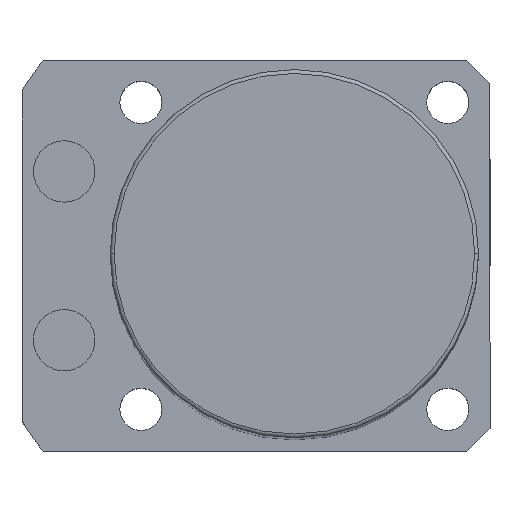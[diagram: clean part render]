
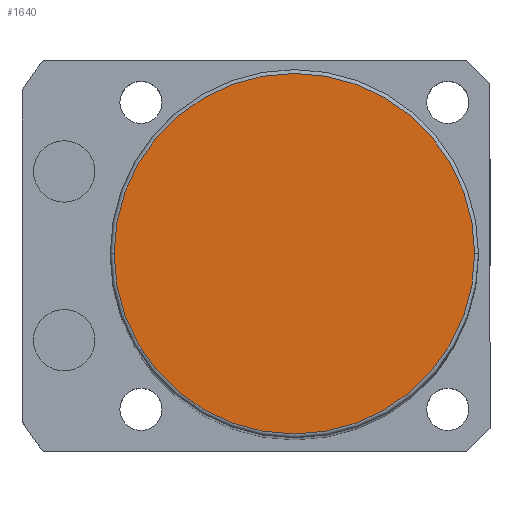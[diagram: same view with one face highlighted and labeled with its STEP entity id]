
A CAD part, top view. The second image highlights one B-rep face of the part: STEP entity #1640.
In plain terms, the highlighted planar face has unit normal (0, 0, 1).
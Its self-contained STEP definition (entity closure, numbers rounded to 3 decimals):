
#5 = DIRECTION ( 'NONE',  ( 1., 0., 0. ) ) ;
#17 = EDGE_CURVE ( 'NONE', #2436, #2376, #656, .T. ) ;
#452 = ORIENTED_EDGE ( 'NONE', *, *, #1137, .T. ) ;
#636 = CARTESIAN_POINT ( 'NONE',  ( 0., 0., 171. ) ) ;
#640 = CARTESIAN_POINT ( 'NONE',  ( 0., 0., 171. ) ) ;
#656 = CIRCLE ( 'NONE', #2163, 23.5 ) ;
#853 = DIRECTION ( 'NONE',  ( 0., 0., 1. ) ) ;
#1015 = EDGE_LOOP ( 'NONE', ( #1027, #452 ) ) ;
#1027 = ORIENTED_EDGE ( 'NONE', *, *, #17, .T. ) ;
#1137 = EDGE_CURVE ( 'NONE', #2376, #2436, #1935, .T. ) ;
#1476 = DIRECTION ( 'NONE',  ( 0., 0., 1. ) ) ;
#1640 = ADVANCED_FACE ( 'NONE', ( #1850 ), #2557, .T. ) ;
#1850 = FACE_OUTER_BOUND ( 'NONE', #1015, .T. ) ;
#1935 = CIRCLE ( 'NONE', #2295, 23.5 ) ;
#2086 = CARTESIAN_POINT ( 'NONE',  ( -23.5, 0., 171. ) ) ;
#2163 = AXIS2_PLACEMENT_3D ( 'NONE', #2653, #2477, #2675 ) ;
#2295 = AXIS2_PLACEMENT_3D ( 'NONE', #636, #1476, #5 ) ;
#2336 = AXIS2_PLACEMENT_3D ( 'NONE', #640, #853, #2363 ) ;
#2363 = DIRECTION ( 'NONE',  ( 1., 0., 0. ) ) ;
#2376 = VERTEX_POINT ( 'NONE', #2086 ) ;
#2436 = VERTEX_POINT ( 'NONE', #2739 ) ;
#2477 = DIRECTION ( 'NONE',  ( 0., 0., 1. ) ) ;
#2557 = PLANE ( 'NONE',  #2336 ) ;
#2653 = CARTESIAN_POINT ( 'NONE',  ( 0., 0., 171. ) ) ;
#2675 = DIRECTION ( 'NONE',  ( 1., 0., 0. ) ) ;
#2739 = CARTESIAN_POINT ( 'NONE',  ( 23.5, 0., 171. ) ) ;
